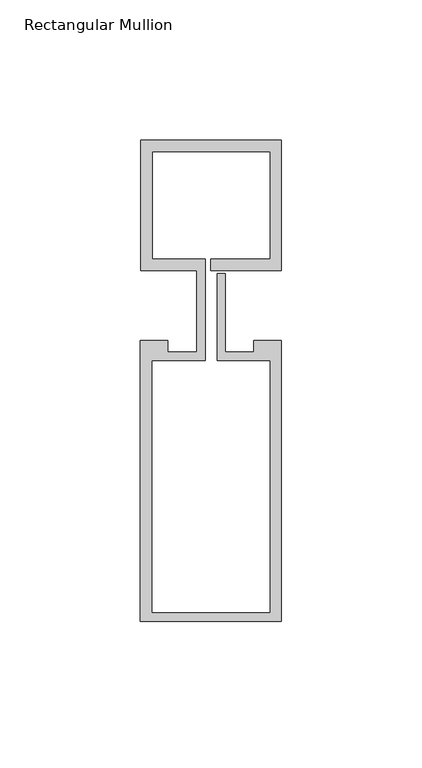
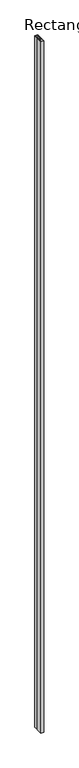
"""IFC4 building model written with IfcOpenShell, lengths in millimetres: member geometry, Rectangular Mullion : Reynaers_CW-50_Mullion-Transom_Horizontal_46.4mm_Facecap-02D."""

from ifc_helpers import new_model, si_unit, frame, origin, place, context, project, spatial, polyline, outline, extrude, source, transform, mapped, element, save


def rectangular_mullion_3d3ca6bd(model_context):
    return source(origin(), model_context, "Body", "SweptSolid", [
        extrude(outline(polyline([(-24.8004059, 58.9), (25.1995941, 58.9), (25.1995941, 12.5), (0.0, 12.5), (0.0, 16.5), (21.1995941, 16.5), (21.1995941, 54.9), (-20.8004059, 54.9), (-20.8004059, 16.5), (-1.9004059, 16.5), (-1.9004059, -19.5), (-20.994845, -19.5), (-20.994845, -109.4191338), (21.1995941, -109.4191338), (21.1995941, -19.5), (2.2995941, -19.5), (2.2995941, 11.5), (5.2995941, 11.5), (5.2995941, -16.5), (15.2996495, -16.5), (15.2996495, -12.5), (25.1995941, -12.5), (25.1995941, -112.5), (-24.994845, -112.5), (-24.994845, -12.5), (-15.2996495, -12.5), (-15.2996495, -16.5), (-4.9004059, -16.5), (-4.9004059, 12.5), (-24.8004059, 12.5), (-24.8004059, 58.9)])), frame((0.0, 0.0, -12000.0), z_axis=(0.0, 0.0, 1.0), x_axis=(1.0, 0.0, 0.0)), (0.0, 0.0, 1.0), 12000.0),
    ])


if __name__ == "__main__":
    model = new_model("IFC4")
    model_context = context("Model", 3, world=origin())
    ifc_project = project(units=[si_unit("LENGTHUNIT", "METRE", prefix="MILLI")], contexts=[model_context])
    site = spatial("IfcSite", under=ifc_project)
    building = spatial("IfcBuilding", under=site)
    placement = place(None, origin())
    rectangular_mullion_shape = rectangular_mullion_3d3ca6bd(model_context)
    element("IfcMember", 1, ObjectType="Rectangular Mullion : Reynaers_CW-50_Mullion-Transom_Horizontal_46.4mm_Facecap-02D", at=placement, inside=building, context=model_context, shape_type="MappedRepresentation", body=[
        mapped(rectangular_mullion_shape, transform((0.0, 0.0, 0.0), x_axis=(1.0, 0.0, 0.0), y_axis=(0.0, 1.0, 0.0), z_axis=(0.0, 0.0, 1.0))),
    ])
    save(model, "model.ifc")
